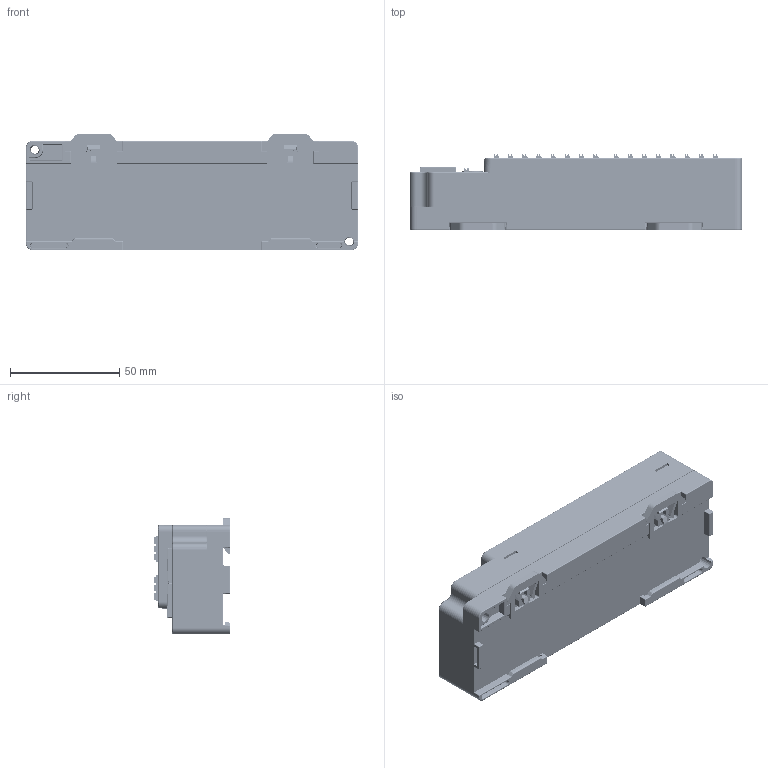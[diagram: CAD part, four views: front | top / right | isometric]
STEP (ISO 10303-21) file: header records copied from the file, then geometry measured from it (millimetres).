
FILE_DESCRIPTION((''),'2;1');
FILE_NAME('XBF5A_32IO_PUSHIN_TOP_ASM','2025-12-11T09:32:19',('Administrator'),(''),'CREO PARAMETRIC BY PTC INC, 2022073','CREO PARAMETRIC BY PTC INC, 2022073','');
FILE_SCHEMA(('AUTOMOTIVE_DESIGN { 1 0 10303 214 1 1 1 1 }'));
Products named in the file (1): XBF5A_32IO_PUSHIN_TOP_ASM
Bounding box: 152 x 34.9 x 53.35 mm (x, y, z)
Volume: 103958.3 mm3; surface area: 139804.6 mm2
Topology: 9 solids, 69 shells, 26484 faces, 75534 edges, 49458 vertices
Faces by surface type: plane 18073, cylinder 5316, extrusion 1308, bspline 906, torus 468, cone 343, sphere 70
Entity records: 1161649 total; most frequent: CARTESIAN_POINT 293198, ORIENTED_EDGE 150480, DIRECTION 131303, EDGE_CURVE 75240, VECTOR 58761, LINE 57453, VERTEX_POINT 49330, AXIS2_PLACEMENT_3D 36271
